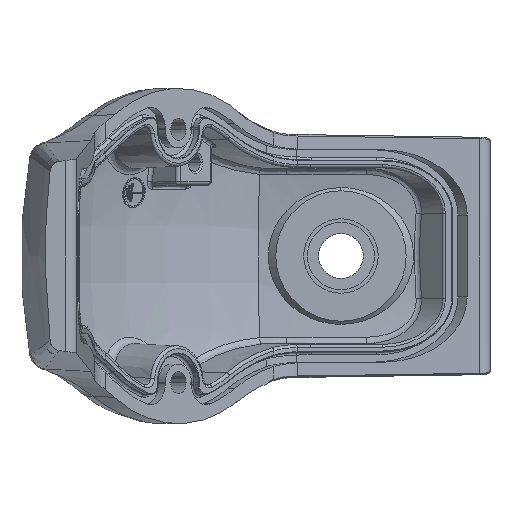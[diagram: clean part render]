
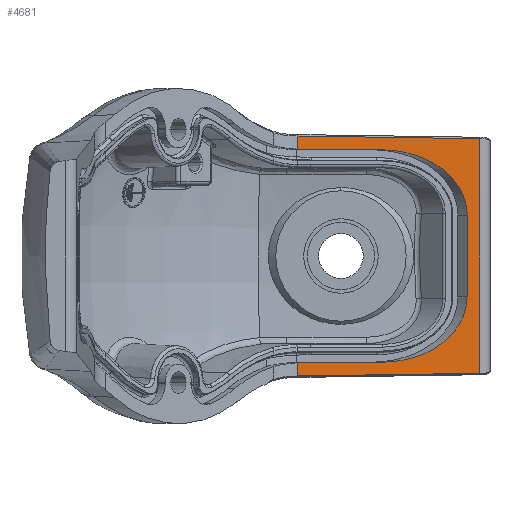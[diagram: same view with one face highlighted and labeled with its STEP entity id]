
A CAD part, front view. The second image highlights one B-rep face of the part: STEP entity #4681.
In plain terms, the highlighted planar face has unit normal (0.087, -0.996, 0).
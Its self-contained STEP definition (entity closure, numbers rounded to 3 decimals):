
#179 = LINE ( 'NONE', #15993, #5043 ) ;
#310 = EDGE_CURVE ( 'NONE', #4784, #21646, #16706, .T. ) ;
#402 = VERTEX_POINT ( 'NONE', #13013 ) ;
#522 = AXIS2_PLACEMENT_3D ( 'NONE', #22931, #4410, #2927 ) ;
#616 = CARTESIAN_POINT ( 'NONE',  ( -27.352, 123.333, -31.738 ) ) ;
#673 = CARTESIAN_POINT ( 'NONE',  ( -11.039, 124.76, -45. ) ) ;
#965 = CARTESIAN_POINT ( 'NONE',  ( -8.3, 125., -28.5 ) ) ;
#1095 = PLANE ( 'NONE',  #522 ) ;
#1180 =( BOUNDED_CURVE ( )  B_SPLINE_CURVE ( 3, ( #14304, #3375, #5188, #17995 ),
 .UNSPECIFIED., .F., .F. ) 
 B_SPLINE_CURVE_WITH_KNOTS ( ( 4, 4 ),
 ( 4.712, 6.283 ),
 .UNSPECIFIED. ) 
 CURVE ( )  GEOMETRIC_REPRESENTATION_ITEM ( )  RATIONAL_B_SPLINE_CURVE ( ( 1., 0.805, 0.805, 1. ) ) 
 REPRESENTATION_ITEM ( '' )  );
#1346 = VERTEX_POINT ( 'NONE', #18570 ) ;
#1573 = VERTEX_POINT ( 'NONE', #11494 ) ;
#1683 = DIRECTION ( 'NONE',  ( 0., 0., -1. ) ) ;
#2050 = EDGE_CURVE ( 'NONE', #4784, #11025, #6500, .T. ) ;
#2207 = VECTOR ( 'NONE', #21246, 1000. ) ;
#2410 = ORIENTED_EDGE ( 'NONE', *, *, #11802, .T. ) ;
#2927 = DIRECTION ( 'NONE',  ( -0.996, -0.087, 0. ) ) ;
#3097 = LINE ( 'NONE', #23517, #21926 ) ;
#3375 = CARTESIAN_POINT ( 'NONE',  ( -23.864, 123.638, 28.5 ) ) ;
#4084 = CARTESIAN_POINT ( 'NONE',  ( -14.437, 124.463, 11. ) ) ;
#4213 = CARTESIAN_POINT ( 'NONE',  ( -43.695, 121.903, -31.978 ) ) ;
#4293 = EDGE_CURVE ( 'NONE', #19679, #21646, #23291, .T. ) ;
#4410 = DIRECTION ( 'NONE',  ( -0.087, 0.996, 0. ) ) ;
#4681 = ADVANCED_FACE ( 'NONE', ( #5292 ), #1095, .F. ) ;
#4784 = VERTEX_POINT ( 'NONE', #6653 ) ;
#4890 = VERTEX_POINT ( 'NONE', #6729 ) ;
#5018 = DIRECTION ( 'NONE',  ( 0.996, 0.087, 0. ) ) ;
#5043 = VECTOR ( 'NONE', #5018, 1000. ) ;
#5188 = CARTESIAN_POINT ( 'NONE',  ( -14.437, 124.463, 21.251 ) ) ;
#5292 = FACE_OUTER_BOUND ( 'NONE', #20630, .T. ) ;
#5312 = ORIENTED_EDGE ( 'NONE', *, *, #21778, .T. ) ;
#5691 = EDGE_CURVE ( 'NONE', #13421, #17853, #11260, .T. ) ;
#5862 = CARTESIAN_POINT ( 'NONE',  ( -14.437, 124.463, -45. ) ) ;
#6052 = CARTESIAN_POINT ( 'NONE',  ( -11.039, 124.76, -31.482 ) ) ;
#6392 = ORIENTED_EDGE ( 'NONE', *, *, #4293, .T. ) ;
#6500 = LINE ( 'NONE', #8458, #2207 ) ;
#6653 = CARTESIAN_POINT ( 'NONE',  ( -60.068, 120.471, -28.675 ) ) ;
#6729 = CARTESIAN_POINT ( 'NONE',  ( -11.039, 124.76, 31.482 ) ) ;
#6819 = ORIENTED_EDGE ( 'NONE', *, *, #7982, .T. ) ;
#7532 = VECTOR ( 'NONE', #17550, 1000. ) ;
#7658 = ORIENTED_EDGE ( 'NONE', *, *, #12855, .T. ) ;
#7771 = DIRECTION ( 'NONE',  ( 0., 0., -1. ) ) ;
#7982 = EDGE_CURVE ( 'NONE', #4890, #1346, #15954, .T. ) ;
#8010 = CARTESIAN_POINT ( 'NONE',  ( -54.657, 120.944, 28.5 ) ) ;
#8159 = EDGE_CURVE ( 'NONE', #11025, #11639, #16952, .T. ) ;
#8458 = CARTESIAN_POINT ( 'NONE',  ( -60.068, 120.471, -32.798 ) ) ;
#8577 =( BOUNDED_CURVE ( )  B_SPLINE_CURVE ( 3, ( #16210, #23449, #18216, #20046 ),
 .UNSPECIFIED., .F., .F. ) 
 B_SPLINE_CURVE_WITH_KNOTS ( ( 4, 4 ),
 ( 0., 1.571 ),
 .UNSPECIFIED. ) 
 CURVE ( )  GEOMETRIC_REPRESENTATION_ITEM ( )  RATIONAL_B_SPLINE_CURVE ( ( 1., 0.805, 0.805, 1. ) ) 
 REPRESENTATION_ITEM ( '' )  );
#8755 = ORIENTED_EDGE ( 'NONE', *, *, #22953, .T. ) ;
#9338 = CARTESIAN_POINT ( 'NONE',  ( -11.039, 124.76, 31.482 ) ) ;
#9495 = CARTESIAN_POINT ( 'NONE',  ( -43.695, 121.903, 31.978 ) ) ;
#11025 = VERTEX_POINT ( 'NONE', #21548 ) ;
#11035 = ORIENTED_EDGE ( 'NONE', *, *, #18829, .T. ) ;
#11191 = ORIENTED_EDGE ( 'NONE', *, *, #5691, .T. ) ;
#11260 = LINE ( 'NONE', #5862, #21575 ) ;
#11278 = CARTESIAN_POINT ( 'NONE',  ( -54.657, 120.944, -28.5 ) ) ;
#11494 = CARTESIAN_POINT ( 'NONE',  ( -37.195, 122.472, 28.5 ) ) ;
#11601 = ORIENTED_EDGE ( 'NONE', *, *, #8159, .T. ) ;
#11604 = CARTESIAN_POINT ( 'NONE',  ( -58.268, 120.628, 28.558 ) ) ;
#11639 = VERTEX_POINT ( 'NONE', #6052 ) ;
#11802 = EDGE_CURVE ( 'NONE', #1346, #17034, #3097, .T. ) ;
#12410 = LINE ( 'NONE', #673, #7532 ) ;
#12598 = CARTESIAN_POINT ( 'NONE',  ( -60.068, 120.471, 28.675 ) ) ;
#12855 = EDGE_CURVE ( 'NONE', #17853, #19679, #8577, .T. ) ;
#13005 = CARTESIAN_POINT ( 'NONE',  ( -27.352, 123.333, 31.738 ) ) ;
#13013 = CARTESIAN_POINT ( 'NONE',  ( -54.657, 120.944, 28.5 ) ) ;
#13385 = CARTESIAN_POINT ( 'NONE',  ( -11.039, 124.76, -31.482 ) ) ;
#13421 = VERTEX_POINT ( 'NONE', #4084 ) ;
#13519 = CARTESIAN_POINT ( 'NONE',  ( -60.068, 120.471, -28.675 ) ) ;
#13707 = CARTESIAN_POINT ( 'NONE',  ( -54.657, 120.944, -28.5 ) ) ;
#14153 = CARTESIAN_POINT ( 'NONE',  ( -37.195, 122.472, -28.5 ) ) ;
#14304 = CARTESIAN_POINT ( 'NONE',  ( -37.195, 122.472, 28.5 ) ) ;
#14383 = EDGE_CURVE ( 'NONE', #17034, #402, #16925, .T. ) ;
#15954 = B_SPLINE_CURVE_WITH_KNOTS ( 'NONE', 3,
 ( #9338, #13005, #9495, #22265 ),
 .UNSPECIFIED., .F., .F.,
 ( 4, 4 ),
 ( 0., 1. ),
 .UNSPECIFIED. ) ;
#15993 = CARTESIAN_POINT ( 'NONE',  ( -8.3, 125., 28.5 ) ) ;
#16210 = CARTESIAN_POINT ( 'NONE',  ( -14.437, 124.463, -11. ) ) ;
#16536 = ORIENTED_EDGE ( 'NONE', *, *, #14383, .T. ) ;
#16706 =( BOUNDED_CURVE ( )  B_SPLINE_CURVE ( 3, ( #13519, #20446, #22906, #13707 ),
 .UNSPECIFIED., .F., .F. ) 
 B_SPLINE_CURVE_WITH_KNOTS ( ( 4, 4 ),
 ( 4.628, 4.712 ),
 .UNSPECIFIED. ) 
 CURVE ( )  GEOMETRIC_REPRESENTATION_ITEM ( )  RATIONAL_B_SPLINE_CURVE ( ( 1., 0.999, 0.999, 1. ) ) 
 REPRESENTATION_ITEM ( '' )  );
#16925 =( BOUNDED_CURVE ( )  B_SPLINE_CURVE ( 3, ( #17149, #11604, #18976, #8010 ),
 .UNSPECIFIED., .F., .F. ) 
 B_SPLINE_CURVE_WITH_KNOTS ( ( 4, 4 ),
 ( 4.628, 4.712 ),
 .UNSPECIFIED. ) 
 CURVE ( )  GEOMETRIC_REPRESENTATION_ITEM ( )  RATIONAL_B_SPLINE_CURVE ( ( 1., 0.999, 0.999, 1. ) ) 
 REPRESENTATION_ITEM ( '' )  );
#16952 = B_SPLINE_CURVE_WITH_KNOTS ( 'NONE', 3,
 ( #16978, #4213, #616, #13385 ),
 .UNSPECIFIED., .F., .F.,
 ( 4, 4 ),
 ( 0., 1. ),
 .UNSPECIFIED. ) ;
#16978 = CARTESIAN_POINT ( 'NONE',  ( -60.068, 120.471, -32.203 ) ) ;
#17034 = VERTEX_POINT ( 'NONE', #12598 ) ;
#17149 = CARTESIAN_POINT ( 'NONE',  ( -60.068, 120.471, 28.675 ) ) ;
#17550 = DIRECTION ( 'NONE',  ( 0., 0., 1. ) ) ;
#17853 = VERTEX_POINT ( 'NONE', #20299 ) ;
#17891 = VECTOR ( 'NONE', #20749, 1000. ) ;
#17995 = CARTESIAN_POINT ( 'NONE',  ( -14.437, 124.463, 11. ) ) ;
#18138 = ORIENTED_EDGE ( 'NONE', *, *, #310, .F. ) ;
#18216 = CARTESIAN_POINT ( 'NONE',  ( -23.864, 123.638, -28.5 ) ) ;
#18570 = CARTESIAN_POINT ( 'NONE',  ( -60.068, 120.471, 32.203 ) ) ;
#18829 = EDGE_CURVE ( 'NONE', #402, #1573, #179, .T. ) ;
#18976 = CARTESIAN_POINT ( 'NONE',  ( -56.463, 120.786, 28.5 ) ) ;
#19363 = ORIENTED_EDGE ( 'NONE', *, *, #2050, .T. ) ;
#19679 = VERTEX_POINT ( 'NONE', #14153 ) ;
#20046 = CARTESIAN_POINT ( 'NONE',  ( -37.195, 122.472, -28.5 ) ) ;
#20299 = CARTESIAN_POINT ( 'NONE',  ( -14.437, 124.463, -11. ) ) ;
#20446 = CARTESIAN_POINT ( 'NONE',  ( -58.268, 120.628, -28.558 ) ) ;
#20630 = EDGE_LOOP ( 'NONE', ( #19363, #11601, #5312, #6819, #2410, #16536, #11035, #8755, #11191, #7658, #6392, #18138 ) ) ;
#20749 = DIRECTION ( 'NONE',  ( -0.996, -0.087, 0. ) ) ;
#21246 = DIRECTION ( 'NONE',  ( 0., 0., -1. ) ) ;
#21548 = CARTESIAN_POINT ( 'NONE',  ( -60.068, 120.471, -32.203 ) ) ;
#21575 = VECTOR ( 'NONE', #7771, 1000. ) ;
#21646 = VERTEX_POINT ( 'NONE', #11278 ) ;
#21778 = EDGE_CURVE ( 'NONE', #11639, #4890, #12410, .T. ) ;
#21926 = VECTOR ( 'NONE', #1683, 1000. ) ;
#22265 = CARTESIAN_POINT ( 'NONE',  ( -60.068, 120.471, 32.203 ) ) ;
#22906 = CARTESIAN_POINT ( 'NONE',  ( -56.463, 120.786, -28.5 ) ) ;
#22931 = CARTESIAN_POINT ( 'NONE',  ( -8.3, 125., -45. ) ) ;
#22953 = EDGE_CURVE ( 'NONE', #1573, #13421, #1180, .T. ) ;
#23291 = LINE ( 'NONE', #965, #17891 ) ;
#23449 = CARTESIAN_POINT ( 'NONE',  ( -14.437, 124.463, -21.251 ) ) ;
#23517 = CARTESIAN_POINT ( 'NONE',  ( -60.068, 120.471, 28.99 ) ) ;
